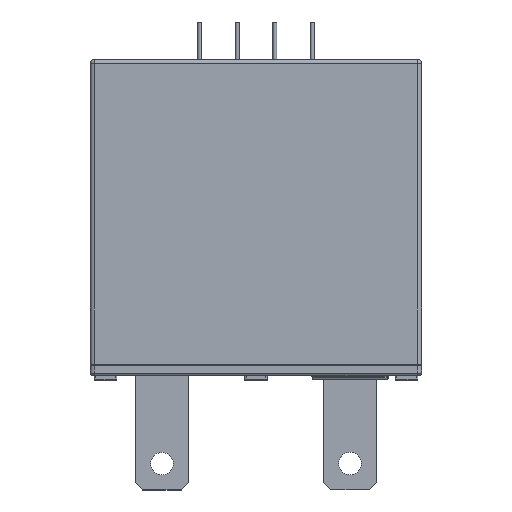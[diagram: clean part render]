
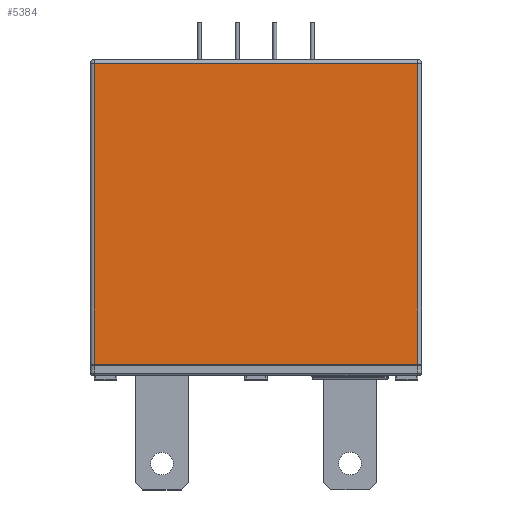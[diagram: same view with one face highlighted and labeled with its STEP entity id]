
A CAD part, top view. The second image highlights one B-rep face of the part: STEP entity #5384.
In plain terms, the highlighted planar face has unit normal (0, 0, 1).
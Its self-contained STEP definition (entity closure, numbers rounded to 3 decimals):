
#155=DIRECTION('',(1.,0.,0.));
#156=VECTOR('',#155,43.);
#157=CARTESIAN_POINT('',(-21.5,1.5,8.25));
#158=LINE('',#157,#156);
#402=DIRECTION('',(1.,0.,0.));
#403=VECTOR('',#402,43.);
#404=CARTESIAN_POINT('',(-21.5,41.5,8.25));
#405=LINE('',#404,#403);
#409=DIRECTION('',(0.,1.,0.));
#410=VECTOR('',#409,40.);
#411=CARTESIAN_POINT('',(-21.5,1.5,8.25));
#412=LINE('',#411,#410);
#440=DIRECTION('',(0.,1.,0.));
#441=VECTOR('',#440,40.);
#442=CARTESIAN_POINT('',(21.5,1.5,8.25));
#443=LINE('',#442,#441);
#4845=CARTESIAN_POINT('',(-21.5,1.5,8.25));
#4846=VERTEX_POINT('',#4845);
#4847=CARTESIAN_POINT('',(21.5,1.5,8.25));
#4848=VERTEX_POINT('',#4847);
#4979=CARTESIAN_POINT('',(-21.5,41.5,8.25));
#4980=VERTEX_POINT('',#4979);
#4983=CARTESIAN_POINT('',(21.5,41.5,8.25));
#4984=VERTEX_POINT('',#4983);
#5371=CARTESIAN_POINT('',(-21.5,1.5,8.25));
#5372=DIRECTION('',(0.,0.,1.));
#5373=DIRECTION('',(1.,0.,0.));
#5374=AXIS2_PLACEMENT_3D('',#5371,#5372,#5373);
#5375=PLANE('',#5374);
#5377=ORIENTED_EDGE('',*,*,#5376,.T.);
#5379=ORIENTED_EDGE('',*,*,#5378,.F.);
#5380=ORIENTED_EDGE('',*,*,#5165,.F.);
#5381=ORIENTED_EDGE('',*,*,#5363,.T.);
#5382=EDGE_LOOP('',(#5377,#5379,#5380,#5381));
#5383=FACE_OUTER_BOUND('',#5382,.F.);
#5384=ADVANCED_FACE('',(#5383),#5375,.T.);
#5165=EDGE_CURVE('',#4846,#4848,#158,.T.);
#5363=EDGE_CURVE('',#4846,#4980,#412,.T.);
#5376=EDGE_CURVE('',#4980,#4984,#405,.T.);
#5378=EDGE_CURVE('',#4848,#4984,#443,.T.);
